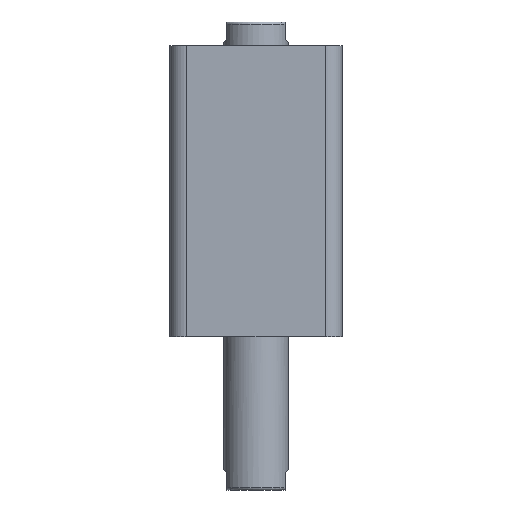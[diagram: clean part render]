
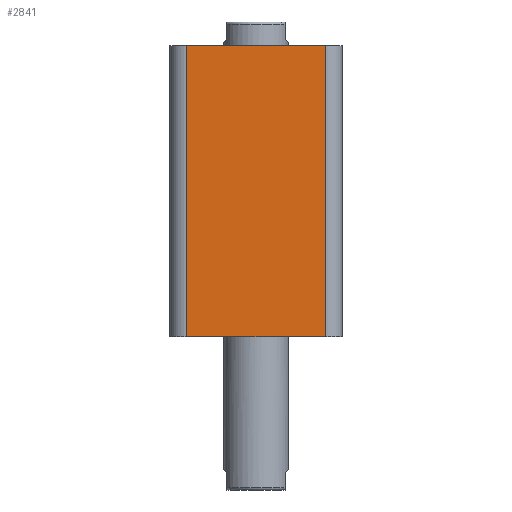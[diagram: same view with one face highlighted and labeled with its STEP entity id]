
A CAD part, front view. The second image highlights one B-rep face of the part: STEP entity #2841.
In plain terms, the highlighted planar face has unit normal (0, -1, 0).
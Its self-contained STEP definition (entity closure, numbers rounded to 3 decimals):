
#266 = ORIENTED_EDGE ( 'NONE', *, *, #1912, .T. ) ;
#267 = ORIENTED_EDGE ( 'NONE', *, *, #1914, .T. ) ;
#268 = ORIENTED_EDGE ( 'NONE', *, *, #1911, .F. ) ;
#274 = ORIENTED_EDGE ( 'NONE', *, *, #1913, .T. ) ;
#709 = CARTESIAN_POINT ( 'NONE',  ( -40., -40., 0. ) ) ;
#719 = CARTESIAN_POINT ( 'NONE',  ( -40., -40., 135. ) ) ;
#720 = DIRECTION ( 'NONE',  ( 1., 0., 0. ) ) ;
#721 = CARTESIAN_POINT ( 'NONE',  ( -32., -40., 135. ) ) ;
#722 = DIRECTION ( 'NONE',  ( 0., 0., -1. ) ) ;
#723 = DIRECTION ( 'NONE',  ( 1., 0., 0. ) ) ;
#724 = CARTESIAN_POINT ( 'NONE',  ( 32., -40., 135. ) ) ;
#725 = DIRECTION ( 'NONE',  ( 0., 0., 1. ) ) ;
#863 = LINE ( 'NONE', #709, #877 ) ;
#870 = LINE ( 'NONE', #719, #873 ) ;
#872 = LINE ( 'NONE', #721, #875 ) ;
#873 = VECTOR ( 'NONE', #720, 1000. ) ;
#875 = VECTOR ( 'NONE', #722, 1000. ) ;
#876 = LINE ( 'NONE', #724, #879 ) ;
#877 = VECTOR ( 'NONE', #723, 1000. ) ;
#879 = VECTOR ( 'NONE', #725, 1000. ) ;
#1102 = FACE_OUTER_BOUND ( 'NONE', #1435, .T. ) ;
#1315 = CARTESIAN_POINT ( 'NONE',  ( -32., -40., 135. ) ) ;
#1435 = EDGE_LOOP ( 'NONE', ( #268, #266, #274, #267 ) ) ;
#1467 = VERTEX_POINT ( 'NONE', #2269 ) ;
#1640 = AXIS2_PLACEMENT_3D ( 'NONE', #2661, #2671, #2672 ) ;
#1911 = EDGE_CURVE ( 'NONE', #3216, #2886, #870, .T. ) ;
#1912 = EDGE_CURVE ( 'NONE', #3216, #2889, #872, .T. ) ;
#1913 = EDGE_CURVE ( 'NONE', #2889, #1467, #863, .T. ) ;
#1914 = EDGE_CURVE ( 'NONE', #1467, #2886, #876, .T. ) ;
#2269 = CARTESIAN_POINT ( 'NONE',  ( 32., -40., 0. ) ) ;
#2661 = CARTESIAN_POINT ( 'NONE',  ( -40., -40., 135. ) ) ;
#2669 = PLANE ( 'NONE',  #1640 ) ;
#2671 = DIRECTION ( 'NONE',  ( 0., 1., 0. ) ) ;
#2672 = DIRECTION ( 'NONE',  ( 0., 0., 1. ) ) ;
#2726 = CARTESIAN_POINT ( 'NONE',  ( 32., -40., 135. ) ) ;
#2734 = CARTESIAN_POINT ( 'NONE',  ( -32., -40., 0. ) ) ;
#2841 = ADVANCED_FACE ( 'NONE', ( #1102 ), #2669, .F. ) ;
#2886 = VERTEX_POINT ( 'NONE', #2726 ) ;
#2889 = VERTEX_POINT ( 'NONE', #2734 ) ;
#3216 = VERTEX_POINT ( 'NONE', #1315 ) ;
